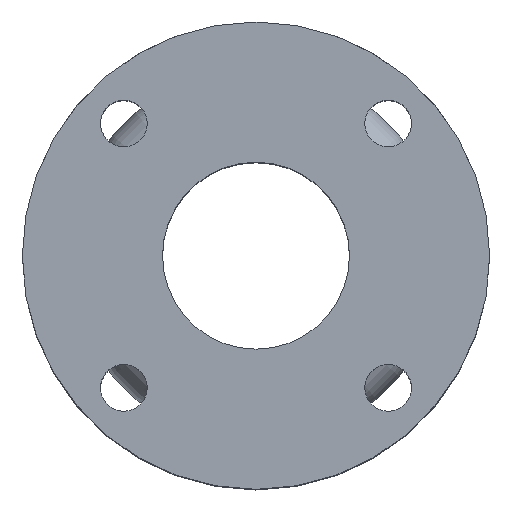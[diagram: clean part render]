
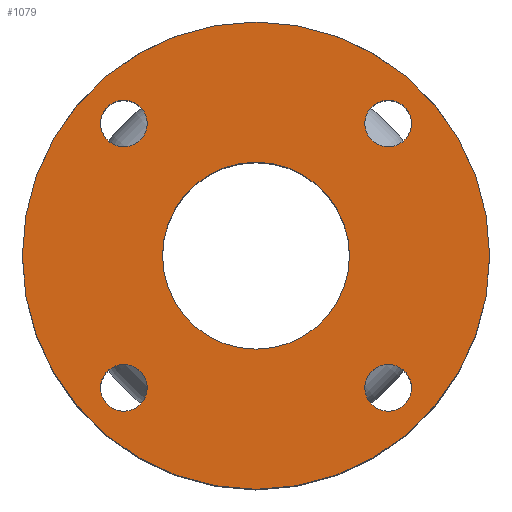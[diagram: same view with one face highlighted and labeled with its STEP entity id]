
A CAD part, top view. The second image highlights one B-rep face of the part: STEP entity #1079.
In plain terms, the highlighted planar face has unit normal (0, 0, 1).
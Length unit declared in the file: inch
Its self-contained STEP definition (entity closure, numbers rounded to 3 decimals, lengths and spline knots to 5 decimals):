
#32=FACE_BOUND('',#193,.T.);
#33=FACE_BOUND('',#194,.T.);
#34=FACE_BOUND('',#195,.T.);
#35=FACE_BOUND('',#196,.T.);
#36=FACE_BOUND('',#197,.T.);
#64=PLANE('',#1217);
#116=FACE_OUTER_BOUND('',#192,.T.);
#192=EDGE_LOOP('',(#796));
#193=EDGE_LOOP('',(#797));
#194=EDGE_LOOP('',(#798));
#195=EDGE_LOOP('',(#799));
#196=EDGE_LOOP('',(#800));
#197=EDGE_LOOP('',(#801));
#404=CIRCLE('',#1202,0.375);
#406=CIRCLE('',#1205,0.375);
#408=CIRCLE('',#1208,0.375);
#410=CIRCLE('',#1211,0.375);
#411=CIRCLE('',#1213,1.5);
#413=CIRCLE('',#1216,3.75);
#480=VERTEX_POINT('',#1737);
#482=VERTEX_POINT('',#1743);
#484=VERTEX_POINT('',#1749);
#486=VERTEX_POINT('',#1755);
#487=VERTEX_POINT('',#1759);
#489=VERTEX_POINT('',#1765);
#589=EDGE_CURVE('',#480,#480,#404,.T.);
#592=EDGE_CURVE('',#482,#482,#406,.T.);
#595=EDGE_CURVE('',#484,#484,#408,.T.);
#598=EDGE_CURVE('',#486,#486,#410,.T.);
#599=EDGE_CURVE('',#487,#487,#411,.T.);
#603=EDGE_CURVE('',#489,#489,#413,.T.);
#796=ORIENTED_EDGE('',*,*,#603,.F.);
#797=ORIENTED_EDGE('',*,*,#589,.T.);
#798=ORIENTED_EDGE('',*,*,#592,.T.);
#799=ORIENTED_EDGE('',*,*,#595,.T.);
#800=ORIENTED_EDGE('',*,*,#598,.T.);
#801=ORIENTED_EDGE('',*,*,#599,.T.);
#1079=ADVANCED_FACE('',(#116,#32,#33,#34,#35,#36),#64,.F.);
#1202=AXIS2_PLACEMENT_3D('',#1739,#1422,#1423);
#1205=AXIS2_PLACEMENT_3D('',#1745,#1429,#1430);
#1208=AXIS2_PLACEMENT_3D('',#1751,#1436,#1437);
#1211=AXIS2_PLACEMENT_3D('',#1757,#1443,#1444);
#1213=AXIS2_PLACEMENT_3D('',#1760,#1447,#1448);
#1216=AXIS2_PLACEMENT_3D('',#1767,#1455,#1456);
#1217=AXIS2_PLACEMENT_3D('',#1768,#1457,#1458);
#1422=DIRECTION('center_axis',(0.,0.,
-1.));
#1423=DIRECTION('ref_axis',(-1.,0.,0.));
#1429=DIRECTION('center_axis',(0.,0.,
-1.));
#1430=DIRECTION('ref_axis',(0.,1.,0.));
#1436=DIRECTION('center_axis',(0.,0.,
-1.));
#1437=DIRECTION('ref_axis',(0.,-1.,0.));
#1443=DIRECTION('center_axis',(0.,0.,
-1.));
#1444=DIRECTION('ref_axis',(1.,0.,0.));
#1447=DIRECTION('center_axis',(0.,0.,
-1.));
#1448=DIRECTION('ref_axis',(-1.,0.,0.));
#1455=DIRECTION('center_axis',(0.,0.,
-1.));
#1456=DIRECTION('ref_axis',(1.,0.,0.));
#1457=DIRECTION('center_axis',(0.,0.,
-1.));
#1458=DIRECTION('ref_axis',(1.,0.,0.));
#1737=CARTESIAN_POINT('',(2.49632,2.12132,3.));
#1739=CARTESIAN_POINT('Origin',(2.12132,2.12132,3.));
#1743=CARTESIAN_POINT('',(2.12132,-2.49632,3.));
#1745=CARTESIAN_POINT('Origin',(2.12132,-2.12132,3.));
#1749=CARTESIAN_POINT('',(-2.12132,2.49632,3.));
#1751=CARTESIAN_POINT('Origin',(-2.12132,2.12132,3.));
#1755=CARTESIAN_POINT('',(-2.49632,-2.12132,3.));
#1757=CARTESIAN_POINT('Origin',(-2.12132,-2.12132,3.));
#1759=CARTESIAN_POINT('',(1.5,0.,3.));
#1760=CARTESIAN_POINT('Origin',(0.,0.,
3.));
#1765=CARTESIAN_POINT('',(-3.75,0.,3.));
#1767=CARTESIAN_POINT('Origin',(0.,0.,
3.));
#1768=CARTESIAN_POINT('Origin',(0.,0.,
3.));
